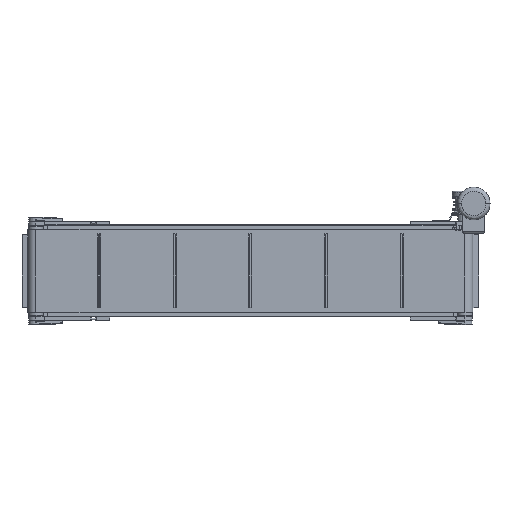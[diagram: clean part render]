
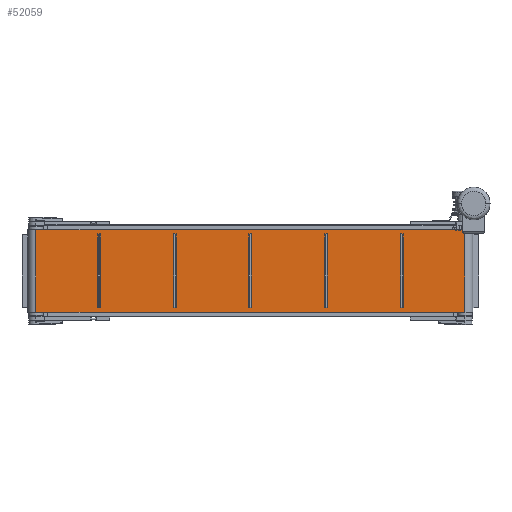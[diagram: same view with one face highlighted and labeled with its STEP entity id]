
A CAD part, front view. The second image highlights one B-rep face of the part: STEP entity #52059.
In plain terms, the highlighted planar face has unit normal (0, -1, 0).
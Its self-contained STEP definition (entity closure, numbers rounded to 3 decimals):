
#1571 = ORIENTED_EDGE ( 'NONE', *, *, #67767, .T. ) ;
#3178 = VERTEX_POINT ( 'NONE', #88716 ) ;
#4156 = LINE ( 'NONE', #22298, #107916 ) ;
#4776 = FACE_OUTER_BOUND ( 'NONE', #47250, .T. ) ;
#7487 = VERTEX_POINT ( 'NONE', #51369 ) ;
#13088 = LINE ( 'NONE', #112912, #38309 ) ;
#18078 = CARTESIAN_POINT ( 'NONE',  ( -725., -27., 140. ) ) ;
#22298 = CARTESIAN_POINT ( 'NONE',  ( -725., -27., -140. ) ) ;
#22472 = EDGE_CURVE ( 'NONE', #38299, #3178, #13088, .T. ) ;
#26208 = PLANE ( 'NONE',  #55500 ) ;
#28780 = VERTEX_POINT ( 'NONE', #118797 ) ;
#29931 = VECTOR ( 'NONE', #72580, 1000. ) ;
#36258 = CARTESIAN_POINT ( 'NONE',  ( -725., -27., 140. ) ) ;
#36477 = ORIENTED_EDGE ( 'NONE', *, *, #99633, .F. ) ;
#37238 = ORIENTED_EDGE ( 'NONE', *, *, #54780, .F. ) ;
#38299 = VERTEX_POINT ( 'NONE', #18078 ) ;
#38309 = VECTOR ( 'NONE', #73376, 1000. ) ;
#42424 = DIRECTION ( 'NONE',  ( 1., 0., 0. ) ) ;
#47250 = EDGE_LOOP ( 'NONE', ( #1571, #37238, #36477, #122566 ) ) ;
#51185 = CARTESIAN_POINT ( 'NONE',  ( 725., -27., 140. ) ) ;
#51369 = CARTESIAN_POINT ( 'NONE',  ( 725., -27., 140. ) ) ;
#52059 = ADVANCED_FACE ( 'NONE', ( #4776 ), #26208, .F. ) ;
#54780 = EDGE_CURVE ( 'NONE', #7487, #28780, #104027, .T. ) ;
#55500 = AXIS2_PLACEMENT_3D ( 'NONE', #36258, #76421, #117288 ) ;
#66526 = VECTOR ( 'NONE', #112130, 1000. ) ;
#67767 = EDGE_CURVE ( 'NONE', #3178, #28780, #4156, .T. ) ;
#72580 = DIRECTION ( 'NONE',  ( 0., 0., -1. ) ) ;
#73376 = DIRECTION ( 'NONE',  ( 0., 0., -1. ) ) ;
#76421 = DIRECTION ( 'NONE',  ( 0., 1., 0. ) ) ;
#88716 = CARTESIAN_POINT ( 'NONE',  ( -725., -27., -140. ) ) ;
#91337 = CARTESIAN_POINT ( 'NONE',  ( -725., -27., 140. ) ) ;
#99633 = EDGE_CURVE ( 'NONE', #38299, #7487, #122831, .T. ) ;
#104027 = LINE ( 'NONE', #51185, #29931 ) ;
#107916 = VECTOR ( 'NONE', #42424, 1000. ) ;
#112130 = DIRECTION ( 'NONE',  ( 1., 0., 0. ) ) ;
#112912 = CARTESIAN_POINT ( 'NONE',  ( -725., -27., 140. ) ) ;
#117288 = DIRECTION ( 'NONE',  ( 0., 0., 1. ) ) ;
#118797 = CARTESIAN_POINT ( 'NONE',  ( 725., -27., -140. ) ) ;
#122566 = ORIENTED_EDGE ( 'NONE', *, *, #22472, .T. ) ;
#122831 = LINE ( 'NONE', #91337, #66526 ) ;
